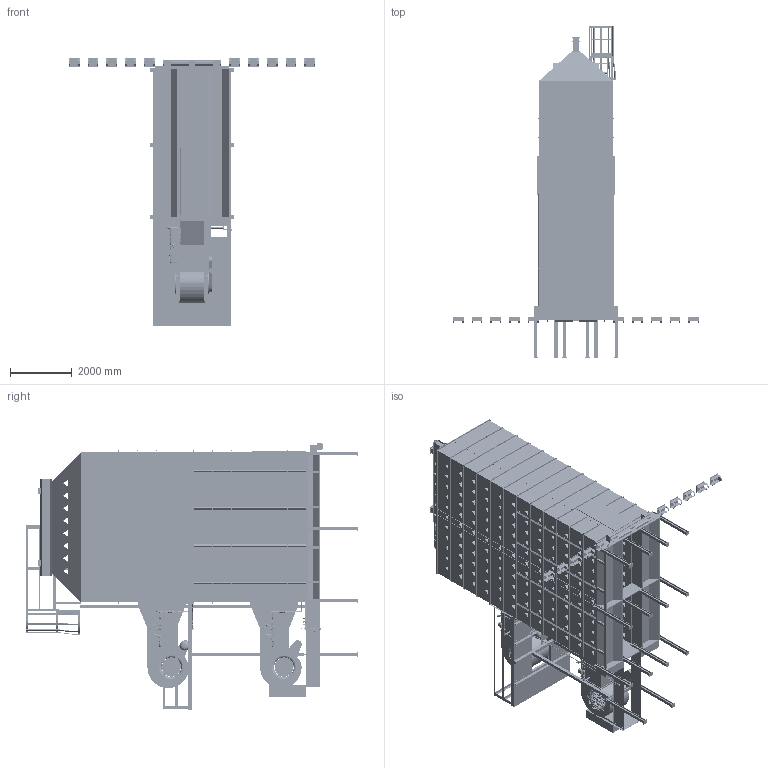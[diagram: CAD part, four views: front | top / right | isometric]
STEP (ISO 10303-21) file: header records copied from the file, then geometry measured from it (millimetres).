
FILE_DESCRIPTION(/* description */ ('PLAN AND ELEVATION VIEW FOR D16140 WITH ROOF & LEVEL AUGER'),/* implementation_level */ '2;1');
FILE_NAME(/* name */ 'C:\Engineering\Designs\Sales\Dryer\Workspaces\D16 All\D16140LA.stp',/* time_stamp */ '2025-01-06T16:50:06-06:00',/* author */ ('max.fleming'),/* organization */ (''),/* preprocessor_version */ 'ST-DEVELOPER v18.1',/* originating_system */ 'Autodesk Inventor 2022',/* authorisation */ '');
FILE_SCHEMA (('AUTOMOTIVE_DESIGN { 1 0 10303 214 3 1 1 }'));
Products named in the file (30): D16140LA; 16FT FRAME; 8FT LHRH FRAME; 16FT CATWALK; 16FT ROOF GF; 8FTRoof GF LHRH; Tongue; 16FT BODY TIER; LH Body; RH Body; LH Body_MIR6; RH Body_MIR6; Outside Splice; Standard Size End Plenum Panels; Ladder 2' section; Trans & Blower; Belt Shield; Screen Guard; LP Fuel; Stiffeners; Platform; Platform Support 1-T; 1 Tier Vertical Support; Level Auger 16'; Level Auger; 8'' Intake; 6'' CROSS AUGER; Leg Kit-02; LP Inlet; Liquid Propane Pipe
Assembly tree (138 placements, depth 3):
  D16140LA
    16FT FRAME
      8FT LHRH FRAME  x2
    16FT CATWALK
    16FT ROOF GF
      8FTRoof GF LHRH  x2
    Tongue
    16FT BODY TIER  x12
      LH Body
      RH Body
      LH Body_MIR6
      RH Body_MIR6
      Outside Splice
    Leg Kit-02  x12
    Standard Size End Plenum Panels  x21
    Trans & Blower  x2
    Belt Shield  x2
    Screen Guard  x4
    LP Fuel  x2
    Stiffeners  x48
    Platform
    Platform Support 1-T
    1 Tier Vertical Support  x10
    LP Inlet
    Liquid Propane Pipe  x6
  Ladder 2' section
  Level Auger 16'
    Level Auger  x2
  8'' Intake
  6'' CROSS AUGER
Bounding box: 8007.35 x 10777.94 x 8695.06 mm (x, y, z)
Volume: 63644713589.4 mm3; surface area: 890917011.3 mm2
Topology: 500 solids, 658 shells, 38174 faces, 98773 edges, 63103 vertices
Faces by surface type: plane 18125, cylinder 11113, bspline 3771, cone 3392, torus 1591, sphere 182
Full cylindrical faces by diameter (mm): 1 x10, 1.651 x6, 1.753 x6, 1.778 x12, 2.019 x4, 2.108 x2, 2.286 x24, 2.489 x2, 2.54 x4, 3.091 x288, 3.175 x5, 3.251 x20, 3.306 x288, 3.522 x2, 3.658 x28, 3.8 x16, 4 x384, 4.039 x20, 4.166 x256, 4.191 x4, 4.229 x2, 4.267 x2, 4.369 x8, 4.445 x8, 4.701 x592, 4.762 x16, 4.851 x8, 4.928 x32, 5.283 x2, 5.527 x20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
Entity records: 736998 total; most frequent: CARTESIAN_POINT 335514, ORIENTED_EDGE 84072, DIRECTION 75130, EDGE_CURVE 42176, VERTEX_POINT 26912, AXIS2_PLACEMENT_3D 26211, LINE 22708, VECTOR 22708
